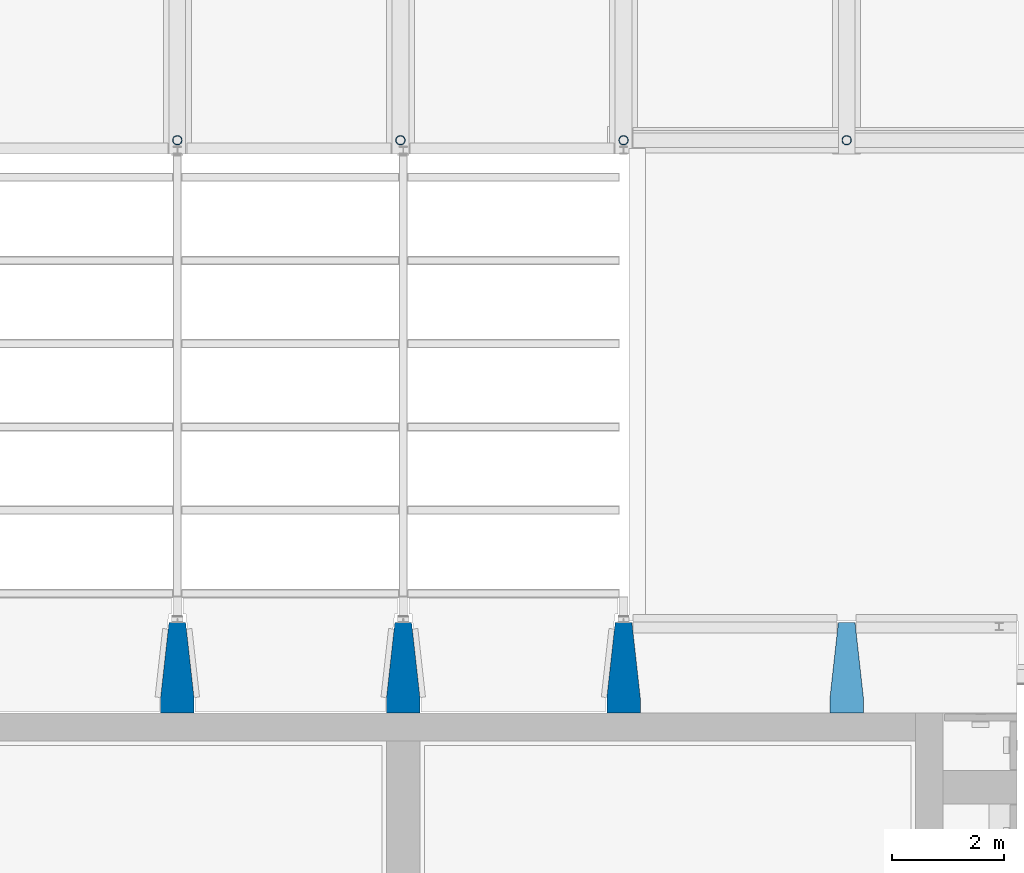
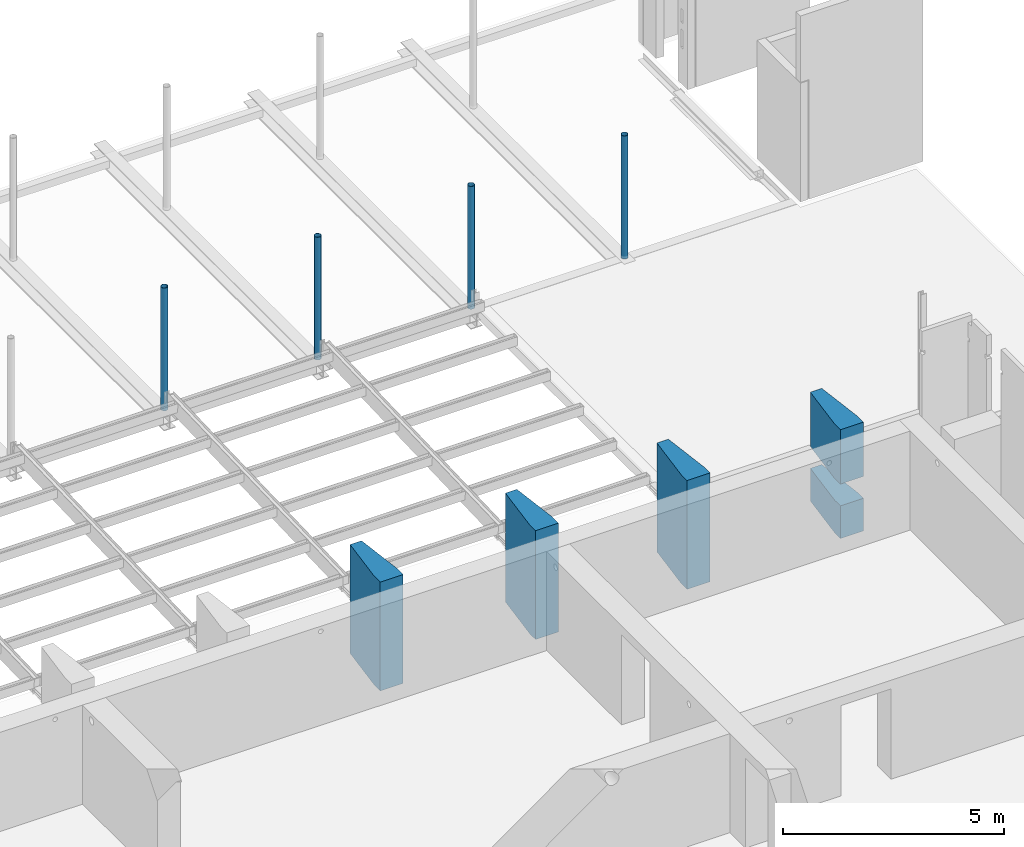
# One storey, part 5 of 31: 8 columns.
"""IFC2X3 building model written with IfcOpenShell, lengths in millimetres."""

from ifc_helpers import new_model, entity, si_unit, converted_unit, derived_unit, direction, frame, frame_2d, origin, place, context, subcontext, project, spatial, polyline, hollow_circle, outline, extrude, source, transform, mapped, material, type_object, type_shapes, element, save


model = new_model("IFC2X3")

# Units and contexts
model_context = context("Model", 3, precision=0.01, world=origin(), true_north=direction((6.12303176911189e-17, 1.0)))
body_context = subcontext(model_context, "Body", "Model", "MODEL_VIEW")
ifc_project = project(units=[si_unit("LENGTHUNIT", "METRE", prefix="MILLI"), si_unit("AREAUNIT", "SQUARE_METRE"), si_unit("VOLUMEUNIT", "CUBIC_METRE"), converted_unit("PLANEANGLEUNIT", "DEGREE", entity("IfcRatioMeasure", 0.0174532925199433), si_unit("PLANEANGLEUNIT", "RADIAN"), dimensions=[0, 0, 0, 0, 0, 0, 0]), si_unit("MASSUNIT", "GRAM", prefix="KILO"), derived_unit("MASSDENSITYUNIT", [(si_unit("MASSUNIT", "GRAM", prefix="KILO"), 1), (si_unit("LENGTHUNIT", "METRE"), -3)]), si_unit("TIMEUNIT", "SECOND"), si_unit("FREQUENCYUNIT", "HERTZ"), si_unit("THERMODYNAMICTEMPERATUREUNIT", "DEGREE_CELSIUS"), derived_unit("THERMALTRANSMITTANCEUNIT", [(si_unit("MASSUNIT", "GRAM", prefix="KILO"), 1), (si_unit("THERMODYNAMICTEMPERATUREUNIT", "KELVIN"), -1), (si_unit("TIMEUNIT", "SECOND"), -3)]), derived_unit("VOLUMETRICFLOWRATEUNIT", [(si_unit("LENGTHUNIT", "METRE"), 3), (si_unit("TIMEUNIT", "SECOND"), -1)]), si_unit("ELECTRICCURRENTUNIT", "AMPERE"), si_unit("ELECTRICVOLTAGEUNIT", "VOLT"), si_unit("POWERUNIT", "WATT"), si_unit("FORCEUNIT", "NEWTON", prefix="KILO"), si_unit("ILLUMINANCEUNIT", "LUX"), si_unit("LUMINOUSFLUXUNIT", "LUMEN"), si_unit("LUMINOUSINTENSITYUNIT", "CANDELA"), derived_unit("USERDEFINED", [(si_unit("MASSUNIT", "GRAM", prefix="KILO"), -1), (si_unit("LENGTHUNIT", "METRE"), -2), (si_unit("TIMEUNIT", "SECOND"), 3), (si_unit("LUMINOUSFLUXUNIT", "LUMEN"), 1)]), derived_unit("LINEARVELOCITYUNIT", [(si_unit("LENGTHUNIT", "METRE"), 1), (si_unit("TIMEUNIT", "SECOND"), -1)]), si_unit("PRESSUREUNIT", "PASCAL"), derived_unit("USERDEFINED", [(si_unit("LENGTHUNIT", "METRE"), -2), (si_unit("MASSUNIT", "GRAM", prefix="KILO"), 1), (si_unit("TIMEUNIT", "SECOND"), -2)])], contexts=[model_context])

# Site, building, storey
site_placement = place(None, origin())
site = spatial("IfcSite", under=ifc_project, at=site_placement, Name="Default", CompositionType="ELEMENT")
building_placement = place(site_placement, origin())
building = spatial("IfcBuilding", under=site, at=building_placement, Name="niet gebruiken", CompositionType="ELEMENT")
storey_placement = place(building_placement, frame((0.0, 0.0, 12000.0)))
storey = spatial("IfcBuildingStorey", under=building, at=storey_placement, Name="03 derde verdieping", CompositionType="ELEMENT", Elevation=12000.0)

# Columns
ifc_material_1 = material(Name="NLRS_f2_beton ihwg")
column_type_1 = type_object("IfcColumnType", Name="600/300x2120/770", PredefinedType="COLUMN", material=ifc_material_1)
shared_shape_1 = source(origin(), body_context, "Body", "SweptSolid", [
    extrude(outline(polyline([(360.0, -300.0), (630.0, -300.0), (630.0, 300.0), (360.0, 300.0), (-990.0, 150.0), (-990.0, -150.0), (360.0, -300.0)])), frame((155750.0, 33860.0, 13410.0), z_axis=(0.0, 0.0, 1.0), x_axis=(0.0, -1.0, 0.0)), (0.0, 0.0, 1.0), 1500.0),
    extrude(outline(polyline([(360.0, -300.0), (630.0, -300.0), (630.0, 300.0), (360.0, 300.0), (-990.0, 150.0), (-990.0, -150.0), (360.0, -300.0)])), frame((155750.0, 33860.0, 11910.0), z_axis=(0.0, 0.0, 1.0), x_axis=(0.0, -1.0, 0.0)), (0.0, 0.0, 1.0), 899.999999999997),
])
type_shapes(column_type_1, [shared_shape_1])
column_1_placement = place(storey_placement, frame((0.0, 0.0, -12000.0)))
element("IfcColumn", 1, at=column_1_placement, inside=storey, type_object=column_type_1, material=ifc_material_1, Name="NLRS_28.11_SCO_TLB_beton kolom ihwg V vorm_gen:600/300x2120/770", ObjectType="600/300x2120/770", context=body_context, shape_type="MappedRepresentation", body=[
    mapped(shared_shape_1, transform((0.0, 0.0, 0.0), scale=1.0)),
])
column_type_2 = type_object("IfcColumnType", Name="600/300x2120/770", PredefinedType="COLUMN", material=ifc_material_1)
shared_shape_2 = source(origin(), body_context, "Body", "SweptSolid", [
    extrude(outline(polyline([(360.0, -300.0), (630.0, -300.0), (630.0, 300.0), (360.0, 300.0), (-990.0, 150.0), (-990.0, -150.0), (360.0, -300.0)])), frame((151750.0, 33860.0, 11910.0), z_axis=(0.0, 0.0, 1.0), x_axis=(0.0, -1.0, 0.0)), (0.0, 0.0, 1.0), 3000.0),
])
type_shapes(column_type_2, [shared_shape_2])
column_2_placement = place(storey_placement, frame((0.0, 0.0, -12000.0)))
element("IfcColumn", 2, at=column_2_placement, inside=storey, type_object=column_type_2, material=ifc_material_1, Name="NLRS_28.11_SCO_TLB_beton kolom ihwg V vorm_gen:600/300x2120/770", ObjectType="600/300x2120/770", context=body_context, shape_type="MappedRepresentation", body=[
    mapped(shared_shape_2, transform((0.0, 0.0, 0.0), scale=1.0)),
])
column_type_3 = type_object("IfcColumnType", Name="600/300x2120/770", PredefinedType="COLUMN", material=ifc_material_1)
shared_shape_3 = source(origin(), body_context, "Body", "SweptSolid", [
    extrude(outline(polyline([(360.0, -300.0), (630.0, -300.0), (630.0, 300.0), (360.0, 300.0), (-990.0, 150.0), (-990.0, -150.0), (360.0, -300.0)])), frame((147800.0, 33860.0, 11910.0), z_axis=(0.0, 0.0, 1.0), x_axis=(0.0, -1.0, 0.0)), (0.0, 0.0, 1.0), 3000.0),
])
type_shapes(column_type_3, [shared_shape_3])
column_3_placement = place(storey_placement, frame((0.0, 0.0, -12000.0)))
element("IfcColumn", 3, at=column_3_placement, inside=storey, type_object=column_type_3, material=ifc_material_1, Name="NLRS_28.11_SCO_TLB_beton kolom ihwg V vorm_gen:600/300x2120/770", ObjectType="600/300x2120/770", context=body_context, shape_type="MappedRepresentation", body=[
    mapped(shared_shape_3, transform((0.0, 0.0, 0.0), scale=1.0)),
])
column_type_4 = type_object("IfcColumnType", Name="600/300x2120/770", PredefinedType="COLUMN", material=ifc_material_1)
shared_shape_4 = source(origin(), body_context, "Body", "SweptSolid", [
    extrude(outline(polyline([(360.0, -300.0), (630.0, -300.0), (630.0, 300.0), (360.0, 300.0), (-990.0, 150.0), (-990.0, -150.0), (360.0, -300.0)])), frame((143750.0, 33860.0, 11910.0), z_axis=(0.0, 0.0, 1.0), x_axis=(0.0, -1.0, 0.0)), (0.0, 0.0, 1.0), 3000.0),
])
type_shapes(column_type_4, [shared_shape_4])
column_4_placement = place(storey_placement, frame((0.0, 0.0, -12000.0)))
element("IfcColumn", 4, at=column_4_placement, inside=storey, type_object=column_type_4, material=ifc_material_1, Name="NLRS_28.11_SCO_TLB_beton kolom ihwg V vorm_gen:600/300x2120/770", ObjectType="600/300x2120/770", context=body_context, shape_type="MappedRepresentation", body=[
    mapped(shared_shape_4, transform((0.0, 0.0, 0.0), scale=1.0)),
])
ifc_material_2 = material(Name="NLRS_h2_staal")
column_type_5 = type_object("IfcColumnType", Name="kolom buisprofiel rond CHS_168.3x8", PredefinedType="COLUMN", material=ifc_material_2)
shared_shape_5 = source(origin(), body_context, "Body", "SweptSolid", [
    extrude(hollow_circle(Radius=84.15, WallThickness=8.0, at=frame_2d((-7.74492256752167e-19, -1.35948075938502e-13), x_axis=(1.0, 0.0))), frame((0.0, 0.0, 13355.0)), (0.0, 0.0, 1.0), 3385.00000000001),
])
type_shapes(column_type_5, [shared_shape_5])
for number, where, name in (
    (5, (143750.0, 43500.0, -12000.0), "NLRS_28.11_SCO_TLB_stalen kolom buisprofiel rond_gen:kolom buisprofiel rond CHS_168.3x8"),
    (6, (147750.0, 43500.0, -12000.0), "NLRS_28.11_SCO_TLB_stalen kolom buisprofiel rond_gen:kolom buisprofiel rond CHS_168.3x8"),
    (7, (151750.0, 43500.0, -12000.0), "NLRS_28.11_SCO_TLB_stalen kolom buisprofiel rond_gen:kolom buisprofiel rond CHS_168.3x8"),
):
    element("IfcColumn", number, at=place(storey_placement, frame(where)), inside=storey, type_object=column_type_5, material=ifc_material_2, Name=name, ObjectType="kolom buisprofiel rond CHS_168.3x8", context=body_context, shape_type="MappedRepresentation", body=[
        mapped(shared_shape_5, transform((0.0, 0.0, 0.0), scale=1.0)),
    ])
column_type_6 = type_object("IfcColumnType", Name="kolom buisprofiel rond CHS_168.3x8", PredefinedType="COLUMN", material=ifc_material_2)
shared_shape_6 = source(origin(), body_context, "Body", "SweptSolid", [
    extrude(hollow_circle(Radius=84.15, WallThickness=8.0, at=frame_2d((-7.74492256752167e-19, -1.35948075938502e-13), x_axis=(1.0, 0.0))), frame((0.0, 0.0, 13340.0)), (0.0, 0.0, 1.0), 3389.99999999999),
])
type_shapes(column_type_6, [shared_shape_6])
column_5_placement = place(storey_placement, frame((155750.0, 43500.0, -12000.0)))
element("IfcColumn", 8, at=column_5_placement, inside=storey, type_object=column_type_6, material=ifc_material_2, Name="NLRS_28.11_SCO_TLB_stalen kolom buisprofiel rond_gen:kolom buisprofiel rond CHS_168.3x8", ObjectType="kolom buisprofiel rond CHS_168.3x8", context=body_context, shape_type="MappedRepresentation", body=[
    mapped(shared_shape_6, transform((0.0, 0.0, 0.0), scale=1.0)),
])

save(model, "model.ifc")
